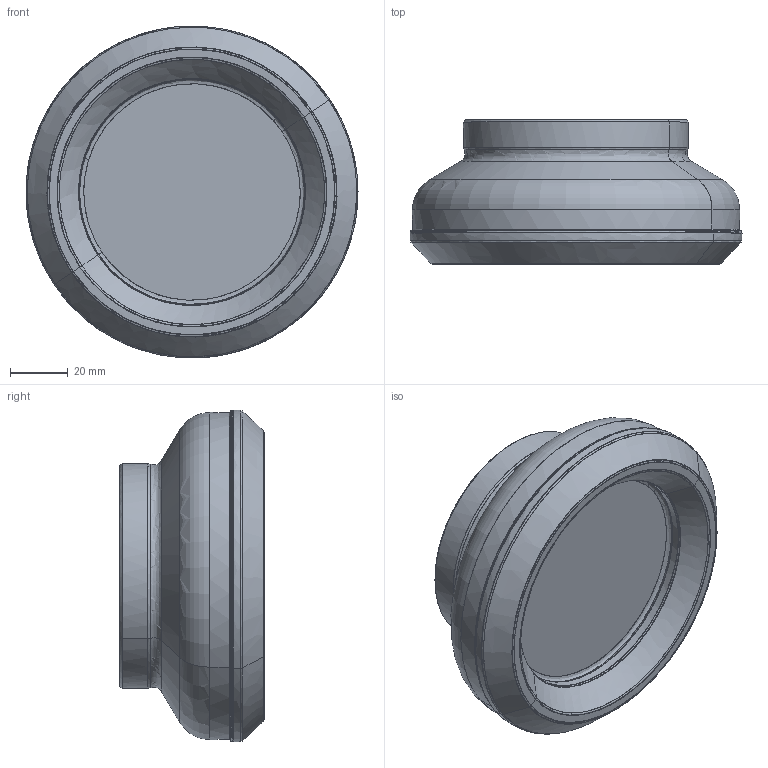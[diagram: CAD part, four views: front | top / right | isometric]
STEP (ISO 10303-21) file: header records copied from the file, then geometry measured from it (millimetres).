
FILE_DESCRIPTION(('OPEN MIND Model'),'2;1');
FILE_NAME('OPEN MIND Shape Model','2018-12-13T09:27:17',('Author'),( 'hyperCAD-S '),'hyperCAD-S STEP processor 6.6','hyperCAD-S 1.0' ,'Unknown');
FILE_SCHEMA(('AUTOMOTIVE_DESIGN { 1 2 10303 214 -1 1 5 4 }'));
Length unit declared in the file: millimetre
Products named in the file (61): Product 1; Product 1.1; Product 1.2; Product 1.3; Product 1.4; Product 1.5; Product 1.6; Product 1.7; Product 1.8; Product 1.9; Product 1.10; Product 1.11; Product 1.12; Product 1.13; Product 1.14; Product 1.15; Product 1.16; Product 1.17; Product 1.18; Product 1.19; Product 1.20; Product 1.21; Product 1.22; Product 1.23; Product 1.24; Product 1.25; Product 1.26; Product 1.27; Product 1.28; Product 1.29; Product 1.30; Product 1.31; Product 1.32; Product 1.33; Product 1.34; Product 1.35; Product 1.36; Product 1.37; Product 1.38; Product 1.39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
Assembly tree (60 placements, depth 2):
  Product 1
    Product 1.1
    Product 1.2
    Product 1.3
    Product 1.4
    Product 1.5
    Product 1.6
    Product 1.7
    Product 1.8
    Product 1.9
    Product 1.10
    Product 1.11
    Product 1.12
    Product 1.13
    Product 1.14
    Product 1.15
    Product 1.16
    Product 1.17
    Product 1.18
    Product 1.19
    Product 1.20
    Product 1.21
    Product 1.22
    Product 1.23
    Product 1.24
    Product 1.25
    Product 1.26
    Product 1.27
    Product 1.28
    Product 1.29
    Product 1.30
    Product 1.31
    Product 1.32
    Product 1.33
    Product 1.34
    Product 1.35
    Product 1.36
    Product 1.37
    Product 1.38
    Product 1.39
    Product 1.40
    Product 1.41
    Product 1.42
    Product 1.43
    Product 1.44
    Product 1.45
    Product 1.46
    Product 1.47
    Product 1.48
    Product 1.49
    Product 1.50
    Product 1.51
    Product 1.52
    Product 1.53
    Product 1.54
    Product 1.55
    Product 1.56
    Product 1.57
    Product 1.58
    Product 1.59
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Bounding box: 115.01 x 50.03 x 114.98 mm (x, y, z)
Surface area: 33642.8 mm2 (no closed solid volume)
Topology: 0 solids, 60 shells, 60 faces, 236 edges, 236 vertices
Faces by surface type: revolution 28, bspline 26, cylinder 4, plane 2
Entity records: 26278 total; most frequent: CARTESIAN_POINT 22789, B_SPLINE_CURVE_WITH_KNOTS 476, ORIENTED_EDGE 236, EDGE_CURVE 236, VERTEX_POINT 236, SURFACE_CURVE 236, PCURVE 236, DEFINITIONAL_REPRESENTATION 236
